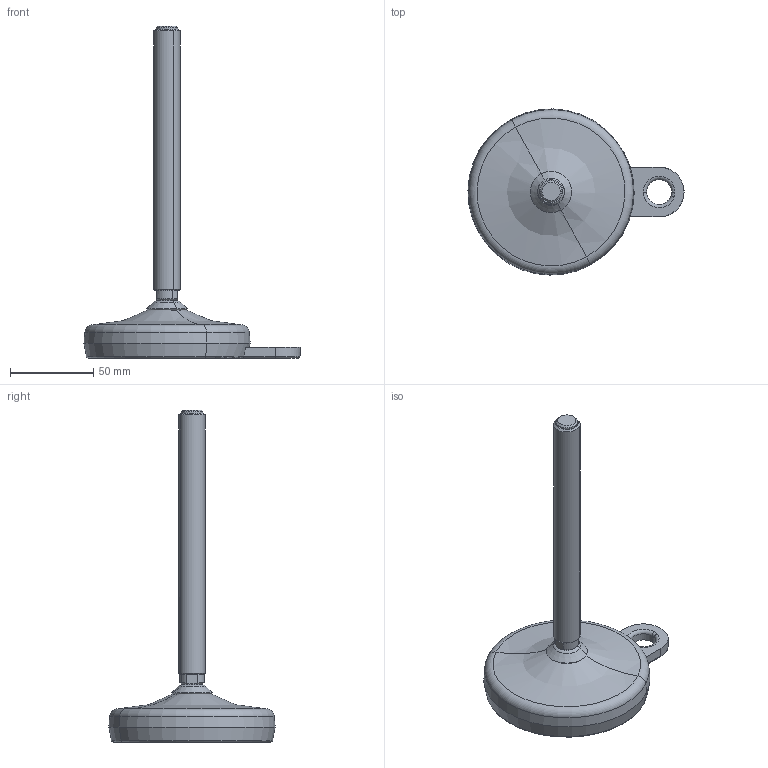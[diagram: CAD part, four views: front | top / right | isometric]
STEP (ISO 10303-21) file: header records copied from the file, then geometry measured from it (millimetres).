
FILE_DESCRIPTION(('STEP AP214'),'1');
FILE_NAME('P93703_01','2017-01-03T14:33:30',('dentellad'),(' '),'Spatial InterOp 3D',' ',' ');
FILE_SCHEMA(('automotive_design'));
Length unit declared in the file: millimetre
Products named in the file (4): 1; 2; 3; 4
Bounding box: 129.99 x 99.97 x 199.68 mm (x, y, z)
Volume: 204925.8 mm3; surface area: 53851 mm2
Topology: 4 solids, 4 shells, 116 faces, 246 edges, 149 vertices
Faces by surface type: cone 37, plane 26, torus 24, cylinder 23, revolution 6
Entity records: 5450 total; most frequent: DIRECTION 637, CARTESIAN_POINT 597, ORIENTED_EDGE 492, STYLED_ITEM 360, PRESENTATION_STYLE_ASSIGNMENT 360, COLOUR_RGB 360, AXIS2_PLACEMENT_3D 281, EDGE_CURVE 246
